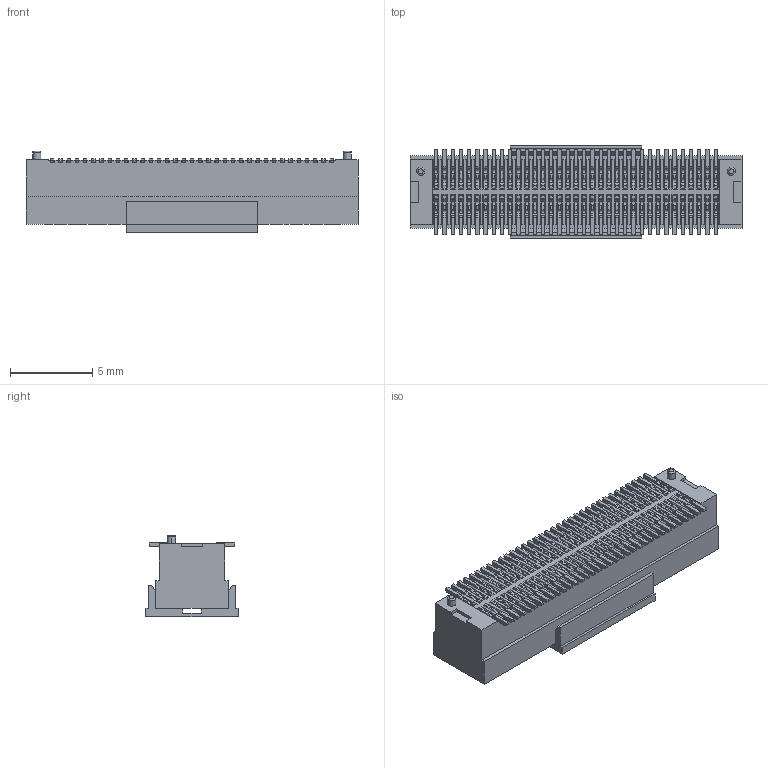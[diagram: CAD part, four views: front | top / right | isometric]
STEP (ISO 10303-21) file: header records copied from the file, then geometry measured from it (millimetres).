
FILE_DESCRIPTION(('CATIA V5 STEP Exchange'),'2;1');
FILE_NAME('F:\黄富鸿\板对板\PBB05\母座\H4.0\编带+盖\HC-PBB05-2-70-F-H4.0-G1-R-P-04（BTB0.5 双槽 母座 立贴 带柱 编带+盖）-HCTL.stp','2025-12-12T06:13:30+00:00',('none'),('none'),'CATIA Version 5 Release 20 GA (IN-10)','CATIA V5 STEP AP203','none');
FILE_SCHEMA(('CONFIG_CONTROL_DESIGN'));
Products named in the file (1): Part2
Bounding box: 20.2 x 5.6 x 4.95 mm (x, y, z)
Volume: 287.2 mm3; surface area: 2009.8 mm2
Topology: 72 solids, 72 shells, 5242 faces, 15558 edges, 10324 vertices
Faces by surface type: plane 3414, cylinder 1824, torus 4
Entity records: 148590 total; most frequent: ORIENTED_EDGE 31116, CARTESIAN_POINT 27233, DIRECTION 16298, EDGE_CURVE 15558, VECTOR 11622, LINE 11622, VERTEX_POINT 10324, EDGE_LOOP 5386
